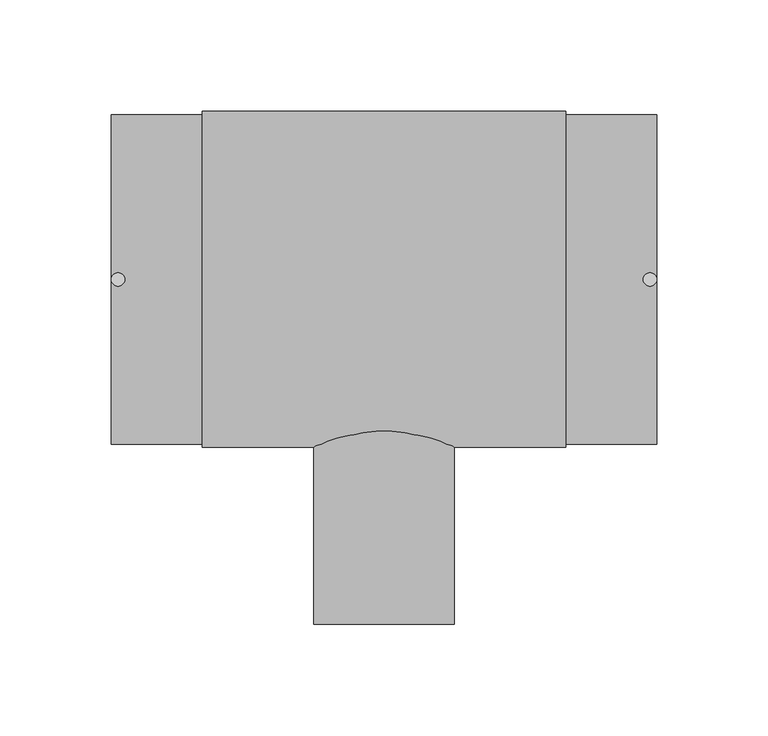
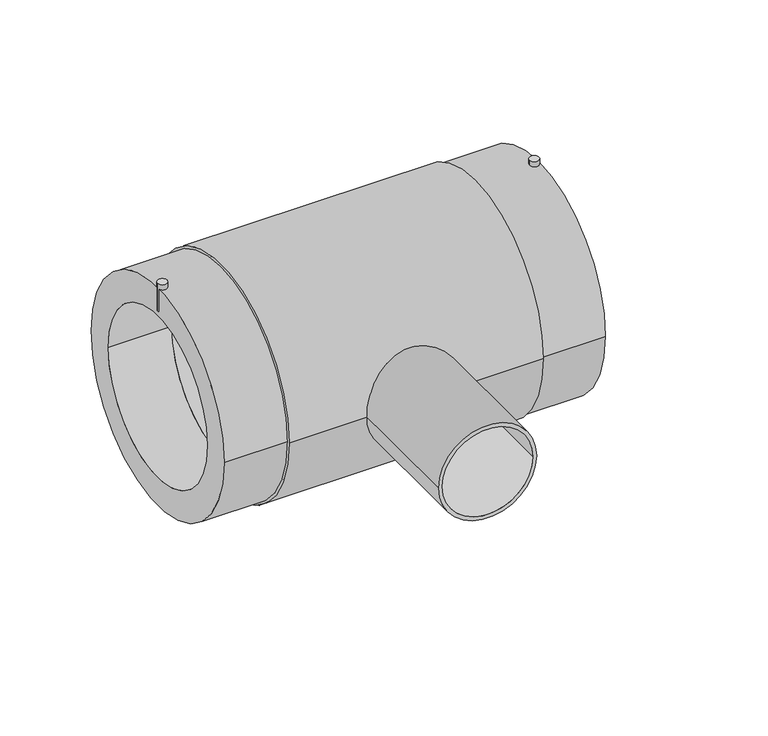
"""IFC4 building model written with IfcOpenShell, lengths in millimetres: pipe fitting geometry, EGB_VASEN_ PPR_Te electrosoldable WXRD300_Te reducida electrosoldable WXRD310 : Te electrosoldable."""

from ifc_helpers import new_model, si_unit, point, frame, frame_2d, origin, origin_2d, place, context, project, spatial, circle_curve, trimmed, segment, composite_curve, outline, extrude, source, transform, mapped, element, save


def pipe_fitting_95fe40e3(model_context):
    return source(origin(), model_context, "Body", "SweptSolid", [
        extrude(outline(composite_curve([segment(trimmed(circle_curve(frame_2d((-119.5, 0.0)), 3.0), [point((-122.5, 0.0))], [point((-116.5, 0.0))], False, "CARTESIAN"), True, "CONTINUOUS"), segment(trimmed(circle_curve(frame_2d((-119.5, 0.0)), 3.0), [point((-116.5, 0.0))], [point((-122.5, 0.0))], False, "CARTESIAN"), True, "CONTINUOUS")], self_intersect=False)), frame((0.0, 0.0, 58.0), z_axis=(0.0, 0.0, 1.0), x_axis=(1.0, 0.0, 0.0)), (0.0, 0.0, 1.0), 19.0),
        extrude(outline(composite_curve([segment(trimmed(circle_curve(frame_2d((119.5, 0.0)), 3.0), [point((116.5, 0.0))], [point((122.5, 0.0))], False, "CARTESIAN"), True, "CONTINUOUS"), segment(trimmed(circle_curve(frame_2d((119.5, 0.0)), 3.0), [point((122.5, 0.0))], [point((116.5, 0.0))], False, "CARTESIAN"), True, "CONTINUOUS")], self_intersect=False)), frame((0.0, 0.0, 58.0), z_axis=(0.0, 0.0, 1.0), x_axis=(1.0, 0.0, 0.0)), (0.0, 0.0, 1.0), 19.0),
        extrude(outline(composite_curve([segment(trimmed(circle_curve(origin_2d(), 34.0), [point((0.0, 34.0))], [point((0.0, -34.0))], False, "CARTESIAN"), True, "CONTINUOUS"), segment(trimmed(circle_curve(origin_2d(), 34.0), [point((0.0, -34.0))], [point((0.0, 34.0))], False, "CARTESIAN"), True, "CONTINUOUS")], self_intersect=False)), frame((0.0, -62.0, 0.0), z_axis=(0.0, 1.0, 0.0), x_axis=(0.0, 0.0, 1.0)), (0.0, 0.0, 1.0), 62.0),
        extrude(outline(composite_curve([segment(trimmed(circle_curve(origin_2d(), 31.5), [point((0.0, -31.5))], [point((0.0, 31.5))], False, "CARTESIAN"), True, "CONTINUOUS"), segment(trimmed(circle_curve(origin_2d(), 31.5), [point((0.0, 31.5))], [point((0.0, -31.5))], False, "CARTESIAN"), True, "CONTINUOUS")], self_intersect=False), holes=[composite_curve([segment(trimmed(circle_curve(origin_2d(), 29.0), [point((0.0, -29.0))], [point((0.0, 29.0))], True, "CARTESIAN"), True, "CONTINUOUS"), segment(trimmed(circle_curve(origin_2d(), 29.0), [point((0.0, 29.0))], [point((0.0, -29.0))], True, "CARTESIAN"), True, "CONTINUOUS")], self_intersect=False)]), frame((0.0, -155.0, 0.0), z_axis=(0.0, 1.0, 0.0), x_axis=(0.0, 0.0, 1.0)), (0.0, 0.0, 1.0), 93.0),
        extrude(outline(composite_curve([segment(trimmed(circle_curve(origin_2d(), 75.5), [point((-75.5, 0.0))], [point((75.5, 0.0))], False, "CARTESIAN"), True, "CONTINUOUS"), segment(trimmed(circle_curve(origin_2d(), 75.5), [point((75.5, 0.0))], [point((-75.5, 0.0))], False, "CARTESIAN"), True, "CONTINUOUS")], self_intersect=False), holes=[composite_curve([segment(trimmed(circle_curve(origin_2d(), 55.0), [point((-55.0, 0.0))], [point((55.0, 0.0))], True, "CARTESIAN"), True, "CONTINUOUS"), segment(trimmed(circle_curve(origin_2d(), 55.0), [point((55.0, 0.0))], [point((-55.0, 0.0))], True, "CARTESIAN"), True, "CONTINUOUS")], self_intersect=False)]), frame((-81.6666667, 0.0, 0.0), z_axis=(1.0, 0.0, 0.0), x_axis=(0.0, 1.0, 0.0)), (0.0, 0.0, 1.0), 163.3333333),
        extrude(outline(composite_curve([segment(trimmed(circle_curve(origin_2d(), 74.0), [point((-74.0, 0.0))], [point((74.0, 0.0))], False, "CARTESIAN"), True, "CONTINUOUS"), segment(trimmed(circle_curve(origin_2d(), 74.0), [point((74.0, 0.0))], [point((-74.0, 0.0))], False, "CARTESIAN"), True, "CONTINUOUS")], self_intersect=False), holes=[composite_curve([segment(trimmed(circle_curve(origin_2d(), 55.0), [point((-55.0, 0.0))], [point((55.0, 0.0))], True, "CARTESIAN"), True, "CONTINUOUS"), segment(trimmed(circle_curve(origin_2d(), 55.0), [point((55.0, 0.0))], [point((-55.0, 0.0))], True, "CARTESIAN"), True, "CONTINUOUS")], self_intersect=False)]), frame((-122.5, 0.0, 0.0), z_axis=(1.0, 0.0, 0.0), x_axis=(0.0, 1.0, 0.0)), (0.0, 0.0, 1.0), 245.0),
    ])


if __name__ == "__main__":
    model = new_model("IFC4")
    model_context = context("Model", 3, world=origin())
    ifc_project = project(units=[si_unit("LENGTHUNIT", "METRE", prefix="MILLI")], contexts=[model_context])
    site = spatial("IfcSite", under=ifc_project)
    building = spatial("IfcBuilding", under=site)
    placement = place(None, origin())
    pipe_fitting_shape = pipe_fitting_95fe40e3(model_context)
    element("IfcPipeFitting", 1, ObjectType="EGB_VASEN_ PPR_Te electrosoldable WXRD300_Te reducida electrosoldable WXRD310 : Te electrosoldable", at=placement, inside=building, context=model_context, shape_type="MappedRepresentation", body=[
        mapped(pipe_fitting_shape, transform((0.0, 0.0, 0.0), x_axis=(1.0, 0.0, 0.0), y_axis=(0.0, 1.0, 0.0), z_axis=(0.0, 0.0, 1.0))),
    ])
    save(model, "model.ifc")
